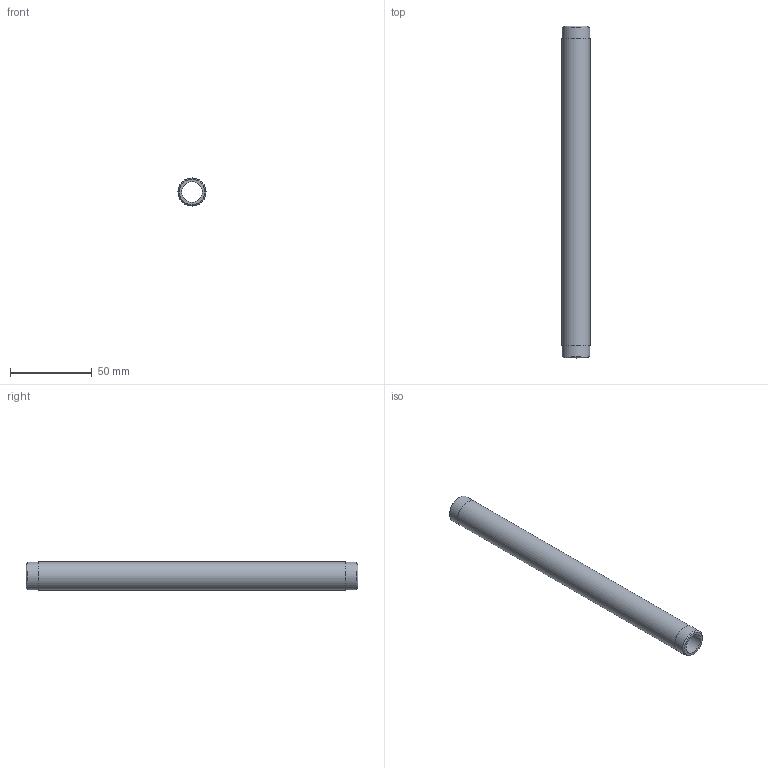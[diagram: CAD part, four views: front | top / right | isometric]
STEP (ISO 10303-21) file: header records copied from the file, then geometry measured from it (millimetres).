
FILE_DESCRIPTION(/* description */ (''),/* implementation_level */ '2;1');
FILE_NAME(/* name */ 'C:/Users/drich/Desktop/SSPN38-8 v1.step',/* time_stamp */ '2020-01-04T13:58:14-06:00',/* author */ (''),/* organization */ (''),/* preprocessor_version */ 'ST-DEVELOPER v18',/* originating_system */ 'Autodesk Translation Framework v8.12.0.6',/* authorisation */ '');
FILE_SCHEMA (('AUTOMOTIVE_DESIGN { 1 0 10303 214 3 1 1 }'));
Length unit declared in the file: inch
Products named in the file (1): SSPN38-8
Bounding box: 17.14 x 203.2 x 17.14 mm (x, y, z)
Volume: 21836.4 mm3; surface area: 19102.2 mm2
Topology: 1 solids, 1 shells, 10 faces, 24 edges, 18 vertices
Faces by surface type: cylinder 4, plane 4, cone 2
Full cylindrical faces by diameter (mm): 12.522 x1, 17.094 x2, 17.145 x1
Entity records: 353 total; most frequent: DIRECTION 64, CARTESIAN_POINT 53, ORIENTED_EDGE 48, AXIS2_PLACEMENT_3D 29, EDGE_CURVE 24, CIRCLE 18, VERTEX_POINT 18, EDGE_LOOP 14
